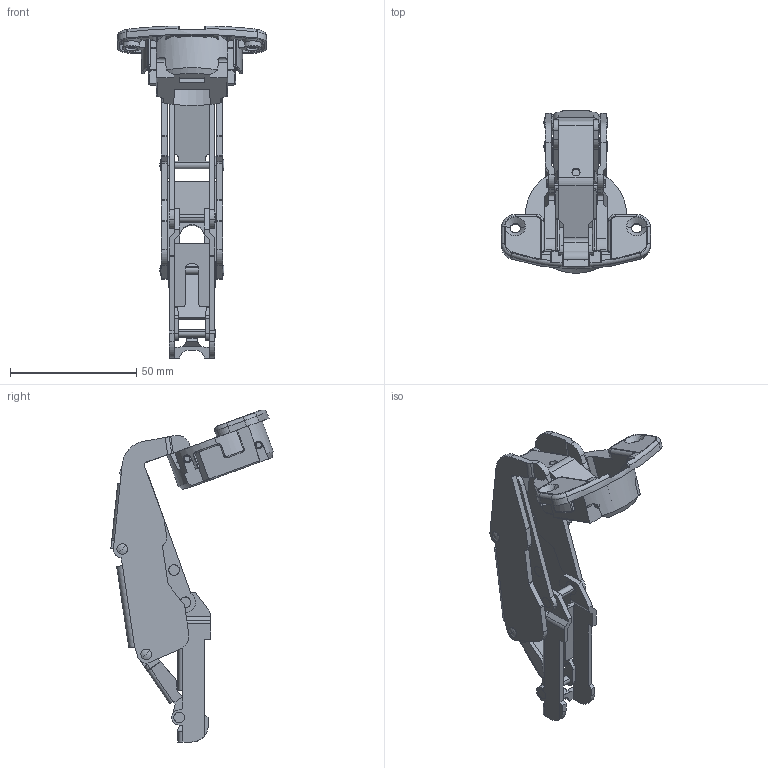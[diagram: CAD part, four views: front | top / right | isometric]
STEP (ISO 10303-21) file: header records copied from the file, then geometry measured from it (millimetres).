
FILE_DESCRIPTION (( 'STEP AP203' ), '1' );
FILE_NAME ('H160_34_23_160.STEP', '2013-05-30T10:24:47', ( '' ), ( '' ), 'SwSTEP 2.0', 'SolidWorks 2012', '' );
FILE_SCHEMA (( 'CONFIG_CONTROL_DESIGN' ));
Length unit declared in the file: millimetre
Products named in the file (8): H160_34_23_160; H160_socket; H160_arm_SJ; H160_arm_SL_23180; H160_arm_GD; H160_arm_CT; H160_body_23
Assembly tree (7 placements, depth 3):
  H160_34_23_160
    H160_34_23_160
      H160_body_23
      H160_arm_CT
      H160_arm_GD
      H160_arm_SL_23180
      H160_arm_SJ
      H160_socket
Bounding box: 59 x 64.24 x 131.4 mm (x, y, z)
Volume: 25758.5 mm3; surface area: 32103.7 mm2
Topology: 6 solids, 8 shells, 1034 faces, 2905 edges, 1858 vertices
Faces by surface type: plane 557, cylinder 363, cone 46, torus 44, bspline 18, sphere 6
Entity records: 35126 total; most frequent: CARTESIAN_POINT 7324, ORIENTED_EDGE 5806, DIRECTION 5617, EDGE_CURVE 2903, AXIS2_PLACEMENT_3D 1911, VERTEX_POINT 1858, LINE 1795, VECTOR 1795
